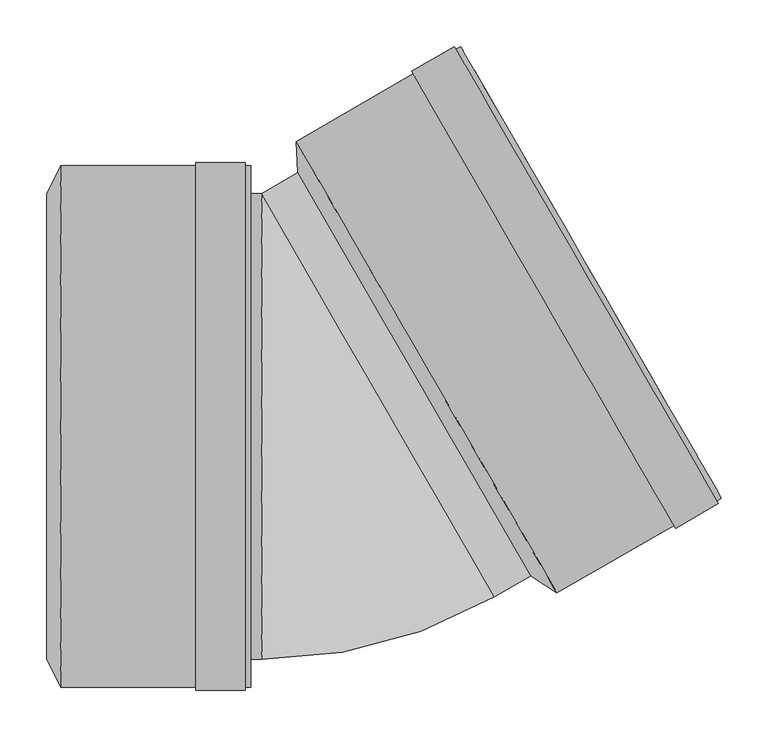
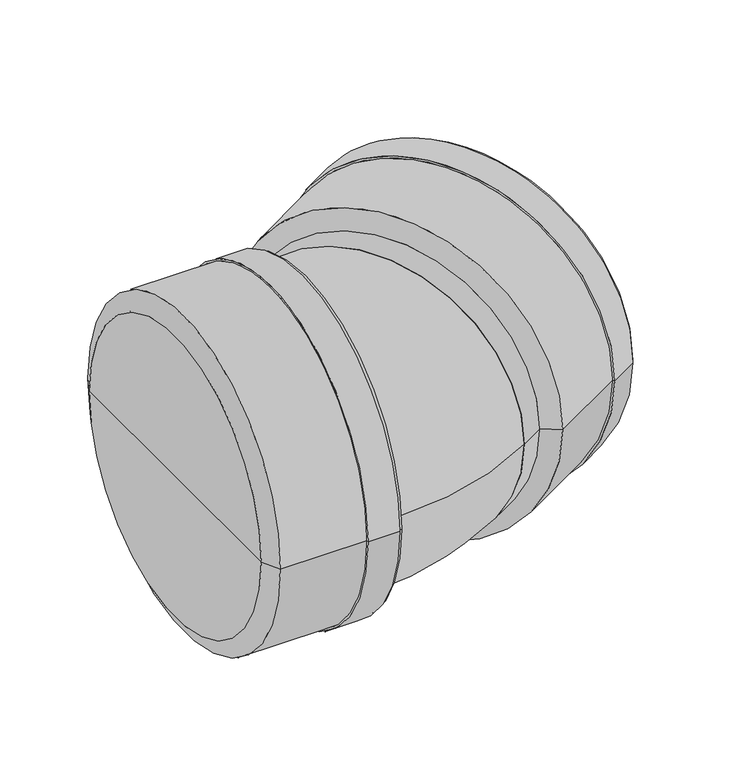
"""IFC4 building model written with IfcOpenShell, lengths in millimetres: pipe fitting geometry, pf_KGB : pf_KGB."""

from ifc_helpers import new_model, si_unit, point, frame, origin, origin_2d, place, context, project, spatial, polyline, circle_curve, ellipse_curve, trimmed, segment, composite_curve, outline, extrude, source, transform, mapped, element, save
from ifc_brep_helpers import plane_surface, cylinder_surface, revolved_surface, advanced_brep


def pipe_fitting_34dcda45(model_context):
    return source(origin(), model_context, "Body", "SolidModel", [
        advanced_brep(
        [(222.0814478, -160.4563509, 0.0), (-27.9185522, 272.5563509, 0.0), (-29.8915686, 306.1737156, 0.0), (250.2084314, -178.9737156, 0.0), (97.0814478, 56.05, 0.0), (426.7910112, -77.0237156, 0.0), (146.6910112, 408.1237156, 0.0), (161.7410112, 382.0563509, 0.0), (411.7410112, -50.9563509, 0.0), (141.6680639, 405.2237156, 0.0), (421.7680639, -79.9237156, 0.0), (139.9680639, 408.168202, 0.0), (423.4680639, -82.868202, 0.0), (94.15532, 381.718202, 0.0), (377.65532, -109.318202, 0.0), (95.85532, 378.7737156, 0.0), (375.95532, -106.3737156, 0.0), (235.1584314, -152.9063509, 0.0), (-14.8415686, 280.1063509, 0.0), (110.1584314, 63.6, 0.0)],
        [
            (0, 1, circle_curve(frame((97.0814478, 56.05, 0.0), z_axis=(0.8660254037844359, 0.5000000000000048, 0.0), x_axis=(-0.5000000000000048, 0.8660254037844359, 0.0)), 250.0)),
            (1, 2),
            (2, 3, circle_curve(frame((110.1584314, 63.6, 0.0), z_axis=(-0.8660254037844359, -0.5000000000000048, 0.0), x_axis=(-0.5000000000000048, 0.8660254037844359, 0.0)), 280.1)),
            (3, 0),
            (1, 0, circle_curve(frame((97.0814478, 56.05, 0.0), z_axis=(0.8660254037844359, 0.5000000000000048, 0.0), x_axis=(-0.5000000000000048, 0.8660254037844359, 0.0)), 250.0)),
            (3, 2, circle_curve(frame((110.1584314, 63.6, 0.0), z_axis=(-0.8660254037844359, -0.5000000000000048, 0.0), x_axis=(-0.5000000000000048, 0.8660254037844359, 0.0)), 280.1)),
            (4, 1),
            (0, 4),
            (5, 6, circle_curve(frame((286.7410112, 165.55, 0.0), z_axis=(0.8660254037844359, 0.5000000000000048, 0.0), x_axis=(-0.5000000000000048, 0.8660254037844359, 0.0)), 280.1)),
            (6, 7),
            (7, 8, circle_curve(frame((286.7410112, 165.55, 0.0), z_axis=(-0.8660254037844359, -0.5000000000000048, 0.0), x_axis=(-0.5000000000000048, 0.8660254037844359, 0.0)), 250.0)),
            (8, 5),
            (9, 10, circle_curve(frame((281.7180639, 162.65, 0.0), z_axis=(0.8660254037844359, 0.5000000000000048, 0.0), x_axis=(-0.5000000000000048, 0.8660254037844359, 0.0)), 280.1)),
            (10, 5),
            (5, 6, circle_curve(frame((286.7410112, 165.55, 0.0), z_axis=(-0.8660254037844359, -0.5000000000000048, 0.0), x_axis=(-0.5000000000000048, 0.8660254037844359, 0.0)), 280.1)),
            (6, 9),
            (11, 12, circle_curve(frame((281.7180639, 162.65, 0.0), z_axis=(0.8660254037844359, 0.5000000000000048, 0.0), x_axis=(-0.5000000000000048, 0.8660254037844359, 0.0)), 283.5)),
            (12, 10),
            (9, 11),
            (13, 14, circle_curve(frame((235.90532, 136.2, 0.0), z_axis=(0.8660254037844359, 0.5000000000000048, 0.0), x_axis=(-0.5000000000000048, 0.8660254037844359, 0.0)), 283.5)),
            (14, 12),
            (11, 13),
            (15, 16, circle_curve(frame((235.90532, 136.2, 0.0), z_axis=(0.8660254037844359, 0.5000000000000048, 0.0), x_axis=(-0.5000000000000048, 0.8660254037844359, 0.0)), 280.1)),
            (16, 14),
            (13, 15),
            (8, 7, circle_curve(frame((286.7410112, 165.55, 0.0), z_axis=(-0.8660254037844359, -0.5000000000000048, 0.0), x_axis=(-0.5000000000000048, 0.8660254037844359, 0.0)), 250.0)),
            (10, 9, circle_curve(frame((281.7180639, 162.65, 0.0), z_axis=(0.8660254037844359, 0.5000000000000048, 0.0), x_axis=(-0.5000000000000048, 0.8660254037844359, 0.0)), 280.1)),
            (12, 11, circle_curve(frame((281.7180639, 162.65, 0.0), z_axis=(0.8660254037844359, 0.5000000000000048, 0.0), x_axis=(-0.5000000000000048, 0.8660254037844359, 0.0)), 283.5)),
            (14, 13, circle_curve(frame((235.90532, 136.2, 0.0), z_axis=(0.8660254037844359, 0.5000000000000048, 0.0), x_axis=(-0.5000000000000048, 0.8660254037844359, 0.0)), 283.5)),
            (16, 15, circle_curve(frame((235.90532, 136.2, 0.0), z_axis=(0.8660254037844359, 0.5000000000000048, 0.0), x_axis=(-0.5000000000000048, 0.8660254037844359, 0.0)), 280.1)),
            (2, 15),
            (16, 3),
            (17, 18, circle_curve(frame((110.1584314, 63.6, 0.0), z_axis=(0.8660254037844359, 0.5000000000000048, 0.0), x_axis=(-0.5000000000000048, 0.8660254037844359, 0.0)), 250.0)),
            (18, 19),
            (19, 17),
            (18, 17, circle_curve(frame((110.1584314, 63.6, 0.0), z_axis=(0.8660254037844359, 0.5000000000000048, 0.0), x_axis=(-0.5000000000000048, 0.8660254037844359, 0.0)), 250.0)),
            (7, 18),
            (17, 8),
        ],
        [
            revolved_surface(polyline([(-29.8915686, 306.1737156, 0.0), (-27.9185522, 272.5563509, 0.0)]), (97.0814478, 56.05, 0.0), (-0.8660254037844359, -0.5000000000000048, 0.0)),
            plane_surface(frame((97.0814478, 56.05, 0.0), z_axis=(-0.8660254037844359, -0.5000000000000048, 0.0), x_axis=(-0.5000000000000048, 0.8660254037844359, 0.0))),
            plane_surface(frame((286.7410112, 165.55, 0.0), z_axis=(0.8660254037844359, 0.5000000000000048, 0.0), x_axis=(-0.5000000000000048, 0.8660254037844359, 0.0))),
            cylinder_surface(frame((97.0814478, 56.05, 0.0), z_axis=(-0.8660254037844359, -0.5000000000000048, 0.0), x_axis=(-0.5000000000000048, 0.8660254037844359, 0.0)), 280.1),
            plane_surface(frame((281.7180639, 162.65, 0.0), z_axis=(0.8660254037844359, 0.5000000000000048, 0.0), x_axis=(-0.5000000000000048, 0.8660254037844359, 0.0))),
            cylinder_surface(frame((97.0814478, 56.05, 0.0), z_axis=(-0.8660254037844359, -0.5000000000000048, 0.0), x_axis=(-0.5000000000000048, 0.8660254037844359, 0.0)), 283.5),
            plane_surface(frame((235.90532, 136.2, 0.0), z_axis=(-0.8660254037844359, -0.5000000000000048, 0.0), x_axis=(-0.5000000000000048, 0.8660254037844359, 0.0))),
            plane_surface(frame((110.1584314, 63.6, 0.0), z_axis=(0.8660254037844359, 0.5000000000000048, 0.0), x_axis=(-0.5000000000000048, 0.8660254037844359, 0.0))),
            revolved_surface(polyline([(-14.841568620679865, 280.10635093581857, 0.0), (161.74101122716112, 382.05635094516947, 0.0)]), (97.0814478, 56.05, 0.0), (-0.8660254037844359, -0.5000000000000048, 0.0)),
        ],
        [
            (0, [[1, 2, 3, 4]]),
            (0, [[5, -4, 6, -2]]),
            (1, [[7, -1, 8]]),
            (1, [[-8, -5, -7]]),
            (2, [[9, 10, 11, 12]]),
            (3, [[13, 14, 15, 16]]),
            (4, [[17, 18, -13, 19]]),
            (5, [[20, 21, -17, 22]]),
            (6, [[23, 24, -20, 25]]),
            (2, [[-15, -12, 26, -10]]),
            (3, [[27, -16, -9, -14]]),
            (4, [[28, -19, -27, -18]]),
            (5, [[29, -22, -28, -21]]),
            (6, [[30, -25, -29, -24]]),
            (3, [[-3, 31, -30, 32]]),
            (3, [[-6, -32, -23, -31]]),
            (7, [[33, 34, 35]]),
            (7, [[36, -35, -34]]),
            (8, [[-11, 37, -33, 38]]),
            (8, [[-26, -38, -36, -37]]),
        ],
    ),
        advanced_brep(
        [(-297.8, -250.0, 0.0), (-297.8, 250.0, 0.0), (-282.7, 280.1, 0.0), (-282.7, -280.1, 0.0), (-297.8, 0.0, 0.0), (-78.8, -280.1, 0.0), (-78.8, 280.1, 0.0), (-78.8, 250.0, 0.0), (-78.8, -250.0, 0.0), (-84.6, 280.1, 0.0), (-84.6, -280.1, 0.0), (-84.6, 283.5, 0.0), (-84.6, -283.5, 0.0), (-137.5, 283.5, 0.0), (-137.5, -283.5, 0.0), (-137.5, 280.1, 0.0), (-137.5, -280.1, 0.0), (-282.7, -250.0, 0.0), (-282.7, 250.0, 0.0), (-282.7, 0.0, 0.0)],
        [
            (0, 1, circle_curve(frame((-297.8, 0.0, 0.0), z_axis=(1.0, 0.0, 0.0), x_axis=(0.0, 1.0, 0.0)), 250.0)),
            (1, 2),
            (2, 3, circle_curve(frame((-282.7, 0.0, 0.0), z_axis=(-1.0, 0.0, 0.0), x_axis=(0.0, 1.0, 0.0)), 280.1)),
            (3, 0),
            (1, 0, circle_curve(frame((-297.8, 0.0, 0.0), z_axis=(1.0, 0.0, 0.0), x_axis=(0.0, 1.0, 0.0)), 250.0)),
            (3, 2, circle_curve(frame((-282.7, 0.0, 0.0), z_axis=(-1.0, 0.0, 0.0), x_axis=(0.0, 1.0, 0.0)), 280.1)),
            (4, 1),
            (0, 4),
            (5, 6, circle_curve(frame((-78.8, 0.0, 0.0), z_axis=(1.0, 0.0, 0.0), x_axis=(0.0, 1.0, 0.0)), 280.1)),
            (6, 7),
            (7, 8, circle_curve(frame((-78.8, 0.0, 0.0), z_axis=(-1.0, 0.0, 0.0), x_axis=(0.0, 1.0, 0.0)), 250.0)),
            (8, 5),
            (9, 10, circle_curve(frame((-84.6, 0.0, 0.0), z_axis=(1.0, 0.0, 0.0), x_axis=(0.0, 1.0, 0.0)), 280.1)),
            (10, 5),
            (5, 6, circle_curve(frame((-78.8, 0.0, 0.0), z_axis=(-1.0, 0.0, 0.0), x_axis=(0.0, 1.0, 0.0)), 280.1)),
            (6, 9),
            (11, 12, circle_curve(frame((-84.6, 0.0, 0.0), z_axis=(1.0, 0.0, 0.0), x_axis=(0.0, 1.0, 0.0)), 283.5)),
            (12, 10),
            (9, 11),
            (13, 14, circle_curve(frame((-137.5, 0.0, 0.0), z_axis=(1.0, 0.0, 0.0), x_axis=(0.0, 1.0, 0.0)), 283.5)),
            (14, 12),
            (11, 13),
            (15, 16, circle_curve(frame((-137.5, 0.0, 0.0), z_axis=(1.0, 0.0, 0.0), x_axis=(0.0, 1.0, 0.0)), 280.1)),
            (16, 14),
            (13, 15),
            (8, 7, circle_curve(frame((-78.8, 0.0, 0.0), z_axis=(-1.0, 0.0, 0.0), x_axis=(0.0, 1.0, 0.0)), 250.0)),
            (10, 9, circle_curve(frame((-84.6, 0.0, 0.0), z_axis=(1.0, 0.0, 0.0), x_axis=(0.0, 1.0, 0.0)), 280.1)),
            (12, 11, circle_curve(frame((-84.6, 0.0, 0.0), z_axis=(1.0, 0.0, 0.0), x_axis=(0.0, 1.0, 0.0)), 283.5)),
            (14, 13, circle_curve(frame((-137.5, 0.0, 0.0), z_axis=(1.0, 0.0, 0.0), x_axis=(0.0, 1.0, 0.0)), 283.5)),
            (16, 15, circle_curve(frame((-137.5, 0.0, 0.0), z_axis=(1.0, 0.0, 0.0), x_axis=(0.0, 1.0, 0.0)), 280.1)),
            (2, 15),
            (16, 3),
            (17, 18, circle_curve(frame((-282.7, 0.0, 0.0), z_axis=(1.0, 0.0, 0.0), x_axis=(0.0, 1.0, 0.0)), 250.0)),
            (18, 19),
            (19, 17),
            (18, 17, circle_curve(frame((-282.7, 0.0, 0.0), z_axis=(1.0, 0.0, 0.0), x_axis=(0.0, 1.0, 0.0)), 250.0)),
            (7, 18),
            (17, 8),
        ],
        [
            revolved_surface(polyline([(-282.7, 280.1, 0.0), (-297.8, 250.0, 0.0)]), (-297.8, 0.0, 0.0), (-1.0, 0.0, 0.0)),
            plane_surface(frame((-297.8, 0.0, 0.0), z_axis=(-1.0, 0.0, 0.0), x_axis=(0.0, 1.0, 0.0))),
            plane_surface(frame((-78.8, 0.0, 0.0), z_axis=(1.0, 0.0, 0.0), x_axis=(0.0, 1.0, 0.0))),
            cylinder_surface(frame((-297.8, 0.0, 0.0), z_axis=(-1.0, 0.0, 0.0), x_axis=(0.0, 1.0, 0.0)), 280.1),
            plane_surface(frame((-84.6, 0.0, 0.0), z_axis=(1.0, 0.0, 0.0), x_axis=(0.0, 1.0, 0.0))),
            cylinder_surface(frame((-297.8, 0.0, 0.0), z_axis=(-1.0, 0.0, 0.0), x_axis=(0.0, 1.0, 0.0)), 283.5),
            plane_surface(frame((-137.5, 0.0, 0.0), z_axis=(-1.0, 0.0, 0.0), x_axis=(0.0, 1.0, 0.0))),
            plane_surface(frame((-282.7, 0.0, 0.0), z_axis=(1.0, 0.0, 0.0), x_axis=(0.0, 1.0, 0.0))),
            revolved_surface(polyline([(-282.7, 250.0, 0.0), (-78.80000000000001, 250.0, 0.0)]), (-297.8, 0.0, 0.0), (-1.0, 0.0, 0.0)),
        ],
        [
            (0, [[1, 2, 3, 4]]),
            (0, [[5, -4, 6, -2]]),
            (1, [[7, -1, 8]]),
            (1, [[-8, -5, -7]]),
            (2, [[9, 10, 11, 12]]),
            (3, [[13, 14, 15, 16]]),
            (4, [[17, 18, -13, 19]]),
            (5, [[20, 21, -17, 22]]),
            (6, [[23, 24, -20, 25]]),
            (2, [[-15, -12, 26, -10]]),
            (3, [[27, -16, -9, -14]]),
            (4, [[28, -19, -27, -18]]),
            (5, [[29, -22, -28, -21]]),
            (6, [[30, -25, -29, -24]]),
            (3, [[-3, 31, -30, 32]]),
            (3, [[-6, -32, -23, -31]]),
            (7, [[33, 34, 35]]),
            (7, [[36, -35, -34]]),
            (8, [[-11, 37, -33, 38]]),
            (8, [[-26, -38, -36, -37]]),
        ],
    ),
        extrude(outline(composite_curve([segment(trimmed(circle_curve(origin_2d(), 250.0), [point((0.0, -250.0))], [point((0.0, 250.0))], False, "CARTESIAN"), True, "CONTINUOUS"), segment(trimmed(circle_curve(origin_2d(), 250.0), [point((0.0, 250.0))], [point((0.0, -250.0))], False, "CARTESIAN"), True, "CONTINUOUS")], self_intersect=False)), frame((58.0127019, 33.4936491, 0.0), z_axis=(0.8660254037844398, 0.4999999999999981, 0.0), x_axis=(0.0, 0.0, 1.0)), (0.0, 0.0, 1.0), 45.1127019),
        extrude(outline(composite_curve([segment(trimmed(circle_curve(origin_2d(), 250.0), [point((-250.0, 0.0))], [point((250.0, 0.0))], False, "CARTESIAN"), True, "CONTINUOUS"), segment(trimmed(circle_curve(origin_2d(), 250.0), [point((250.0, 0.0))], [point((-250.0, 0.0))], False, "CARTESIAN"), True, "CONTINUOUS")], self_intersect=False)), frame((-282.7, 0.0, 0.0), z_axis=(1.0, 0.0, 0.0), x_axis=(0.0, 1.0, 0.0)), (0.0, 0.0, 1.0), 215.7127019),
        advanced_brep(
        [(-66.9872981, -250.0, 0.0), (-66.9872981, 250.0, 0.0), (183.0127019, -183.0127019, 0.0)],
        [
            (0, 1, circle_curve(frame((-66.9872981, 0.0, 0.0), z_axis=(-1.0, 0.0, 0.0), x_axis=(0.0, 1.0, 0.0)), 250.0)),
            (1, 0, circle_curve(frame((-66.9872981, 0.0, 0.0), z_axis=(-1.0, 0.0, 0.0), x_axis=(0.0, 1.0, 0.0)), 250.0)),
            (2, 1, circle_curve(frame((58.0127019, 33.4936491, 0.0), z_axis=(0.8660254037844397, 0.49999999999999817, 0.0), x_axis=(-0.49999999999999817, 0.8660254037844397, 0.0)), 250.0)),
            (1, 2, circle_curve(frame((58.0127019, 33.4936491, 0.0), z_axis=(0.8660254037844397, 0.49999999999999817, 0.0), x_axis=(-0.49999999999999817, 0.8660254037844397, 0.0)), 250.0)),
            (2, 0, circle_curve(frame((-66.9872981, 250.0, 0.0), z_axis=(0.0, 0.0, -1.0), x_axis=(0.0, -1.0, 0.0)), 500.0)),
        ],
        [
            plane_surface(frame((-66.9872981, 250.0, -14.8), z_axis=(-1.0, 0.0, 0.0), x_axis=(0.0, -1.0, 0.0))),
            plane_surface(frame((-66.9872981, 250.0, -14.8), z_axis=(0.8660254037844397, 0.4999999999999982, 0.0), x_axis=(0.4999999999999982, -0.8660254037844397, 0.0))),
            revolved_surface(trimmed(ellipse_curve(frame((-66.9872981, 0.0, 0.0), z_axis=(1.0, 0.0, 0.0), x_axis=(0.0, 1.0, 0.0)), 250.0, 250.0), [point((-66.9872981, -250.0, 0.0))], [point((-66.9872981, 250.0, 0.0))], True, "CARTESIAN"), (-66.9872981, 250.0, -14.8), (0.0, 0.0, -1.0)),
            revolved_surface(trimmed(ellipse_curve(frame((-66.9872981, 0.0, 0.0), z_axis=(1.0, 0.0, 0.0), x_axis=(0.0, 1.0, 0.0)), 250.0, 250.0), [point((-66.9872981, 250.0, 0.0))], [point((-66.9872981, -250.0, 0.0))], True, "CARTESIAN"), (-66.9872981, 250.0, -14.8), (0.0, 0.0, -1.0)),
        ],
        [
            (0, [[1, 2]]),
            (1, [[3, 4]]),
            (2, [[5, -2, -3]]),
            (3, [[-1, -5, -4]]),
        ],
    ),
    ])


if __name__ == "__main__":
    model = new_model("IFC4")
    model_context = context("Model", 3, world=origin())
    ifc_project = project(units=[si_unit("LENGTHUNIT", "METRE", prefix="MILLI")], contexts=[model_context])
    site = spatial("IfcSite", under=ifc_project)
    building = spatial("IfcBuilding", under=site)
    placement = place(None, origin())
    pipe_fitting_shape = pipe_fitting_34dcda45(model_context)
    element("IfcPipeFitting", 1, ObjectType="pf_KGB : pf_KGB", at=placement, inside=building, context=model_context, shape_type="MappedRepresentation", body=[
        mapped(pipe_fitting_shape, transform((0.0, 0.0, 0.0), x_axis=(1.0, 0.0, 0.0), y_axis=(0.0, 1.0, 0.0), z_axis=(0.0, 0.0, 1.0))),
    ])
    save(model, "model.ifc")
